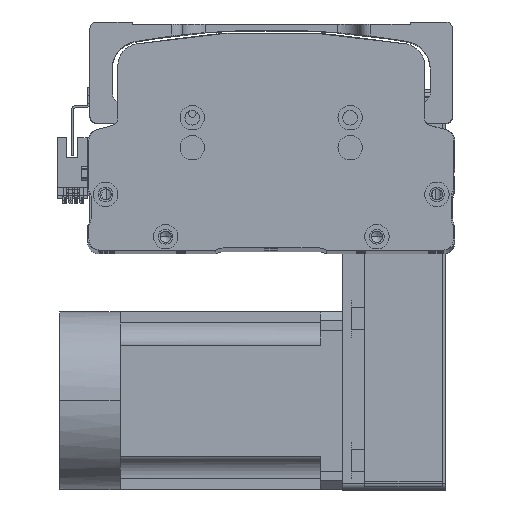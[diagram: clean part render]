
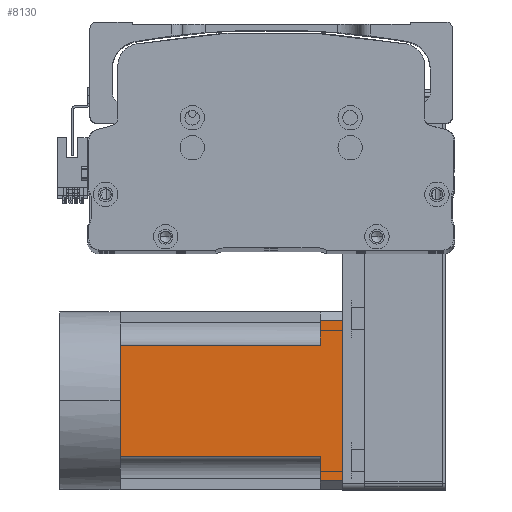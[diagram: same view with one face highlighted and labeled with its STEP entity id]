
A CAD part, top view. The second image highlights one B-rep face of the part: STEP entity #8130.
In plain terms, the highlighted planar face has unit normal (0, 0, 1) as drawn and (0, 0, -1) by its records, which use the part's own axes.
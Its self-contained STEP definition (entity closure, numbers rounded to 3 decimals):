
#17 = CARTESIAN_POINT ( 'NONE',  ( -25., -27., -40. ) ) ;
#198 = EDGE_CURVE ( 'NONE', #38387, #50572, #10936, .T. ) ;
#1111 = VECTOR ( 'NONE', #52843, 1000. ) ;
#1177 = EDGE_CURVE ( 'NONE', #3865, #45585, #15428, .T. ) ;
#2031 = LINE ( 'NONE', #19003, #52935 ) ;
#3818 = ORIENTED_EDGE ( 'NONE', *, *, #1177, .T. ) ;
#3865 = VERTEX_POINT ( 'NONE', #19709 ) ;
#5973 = EDGE_CURVE ( 'NONE', #23214, #32613, #8035, .T. ) ;
#5997 = VECTOR ( 'NONE', #51710, 1000. ) ;
#6011 = ORIENTED_EDGE ( 'NONE', *, *, #5973, .T. ) ;
#8035 = LINE ( 'NONE', #61886, #58903 ) ;
#8130 = ADVANCED_FACE ( 'NONE', ( #55829 ), #22325, .T. ) ;
#8559 = DIRECTION ( 'NONE',  ( -1., 0., 0. ) ) ;
#9041 = ORIENTED_EDGE ( 'NONE', *, *, #198, .T. ) ;
#9909 = DIRECTION ( 'NONE',  ( 0., 1., 0. ) ) ;
#10936 = LINE ( 'NONE', #34541, #35584 ) ;
#11093 = VERTEX_POINT ( 'NONE', #41804 ) ;
#14088 = DIRECTION ( 'NONE',  ( -1., 0., 0. ) ) ;
#15428 = LINE ( 'NONE', #17, #53192 ) ;
#15783 = LINE ( 'NONE', #23351, #1111 ) ;
#17151 = EDGE_CURVE ( 'NONE', #49631, #3865, #45338, .T. ) ;
#19003 = CARTESIAN_POINT ( 'NONE',  ( -40., 90., -40. ) ) ;
#19709 = CARTESIAN_POINT ( 'NONE',  ( -25., 0., -40. ) ) ;
#21985 = EDGE_CURVE ( 'NONE', #11093, #23214, #39443, .T. ) ;
#22325 = PLANE ( 'NONE',  #31039 ) ;
#23214 = VERTEX_POINT ( 'NONE', #37397 ) ;
#23351 = CARTESIAN_POINT ( 'NONE',  ( 36., -27., -40. ) ) ;
#25733 = VECTOR ( 'NONE', #8559, 1000. ) ;
#27483 = DIRECTION ( 'NONE',  ( -1., 0., 0. ) ) ;
#29829 = CARTESIAN_POINT ( 'NONE',  ( -40., 100., -40. ) ) ;
#30422 = VECTOR ( 'NONE', #44735, 1000. ) ;
#31039 = AXIS2_PLACEMENT_3D ( 'NONE', #47083, #56976, #27483 ) ;
#32033 = ORIENTED_EDGE ( 'NONE', *, *, #54423, .T. ) ;
#32613 = VERTEX_POINT ( 'NONE', #40046 ) ;
#33976 = CARTESIAN_POINT ( 'NONE',  ( -36., 100., -40. ) ) ;
#34541 = CARTESIAN_POINT ( 'NONE',  ( -36., -27., -40. ) ) ;
#35584 = VECTOR ( 'NONE', #54192, 1000. ) ;
#36314 = VECTOR ( 'NONE', #53291, 1000. ) ;
#36935 = VERTEX_POINT ( 'NONE', #48351 ) ;
#37246 = LINE ( 'NONE', #43048, #25733 ) ;
#37397 = CARTESIAN_POINT ( 'NONE',  ( 25., 90., -40. ) ) ;
#38298 = CARTESIAN_POINT ( 'NONE',  ( -25., 90., -40. ) ) ;
#38387 = VERTEX_POINT ( 'NONE', #48632 ) ;
#39337 = ORIENTED_EDGE ( 'NONE', *, *, #54897, .T. ) ;
#39443 = LINE ( 'NONE', #58220, #36314 ) ;
#40046 = CARTESIAN_POINT ( 'NONE',  ( 25., 0., -40. ) ) ;
#41804 = CARTESIAN_POINT ( 'NONE',  ( 36., 90., -40. ) ) ;
#41870 = ORIENTED_EDGE ( 'NONE', *, *, #21985, .T. ) ;
#43048 = CARTESIAN_POINT ( 'NONE',  ( -40., 0., -40. ) ) ;
#44735 = DIRECTION ( 'NONE',  ( -1., 0., 0. ) ) ;
#45338 = LINE ( 'NONE', #61592, #5997 ) ;
#45585 = VERTEX_POINT ( 'NONE', #38298 ) ;
#47083 = CARTESIAN_POINT ( 'NONE',  ( -40., -27., -40. ) ) ;
#48351 = CARTESIAN_POINT ( 'NONE',  ( 36., 100., -40. ) ) ;
#48430 = ORIENTED_EDGE ( 'NONE', *, *, #17151, .T. ) ;
#48632 = CARTESIAN_POINT ( 'NONE',  ( -36., 90., -40. ) ) ;
#48991 = ORIENTED_EDGE ( 'NONE', *, *, #60924, .T. ) ;
#49631 = VERTEX_POINT ( 'NONE', #49663 ) ;
#49663 = CARTESIAN_POINT ( 'NONE',  ( 0., 0., -40. ) ) ;
#50572 = VERTEX_POINT ( 'NONE', #33976 ) ;
#51710 = DIRECTION ( 'NONE',  ( -1., 0., 0. ) ) ;
#52005 = DIRECTION ( 'NONE',  ( 0., -1., 0. ) ) ;
#52843 = DIRECTION ( 'NONE',  ( 0., -1., 0. ) ) ;
#52935 = VECTOR ( 'NONE', #14088, 1000. ) ;
#53192 = VECTOR ( 'NONE', #9909, 1000. ) ;
#53291 = DIRECTION ( 'NONE',  ( -1., 0., 0. ) ) ;
#54192 = DIRECTION ( 'NONE',  ( 0., 1., 0. ) ) ;
#54423 = EDGE_CURVE ( 'NONE', #36935, #11093, #15783, .T. ) ;
#54897 = EDGE_CURVE ( 'NONE', #32613, #49631, #37246, .T. ) ;
#55829 = FACE_OUTER_BOUND ( 'NONE', #62875, .T. ) ;
#56674 = LINE ( 'NONE', #29829, #30422 ) ;
#56976 = DIRECTION ( 'NONE',  ( 0., 0., -1. ) ) ;
#58220 = CARTESIAN_POINT ( 'NONE',  ( -40., 90., -40. ) ) ;
#58903 = VECTOR ( 'NONE', #52005, 1000. ) ;
#60374 = ORIENTED_EDGE ( 'NONE', *, *, #61579, .F. ) ;
#60924 = EDGE_CURVE ( 'NONE', #45585, #38387, #2031, .T. ) ;
#61579 = EDGE_CURVE ( 'NONE', #36935, #50572, #56674, .T. ) ;
#61592 = CARTESIAN_POINT ( 'NONE',  ( -40., 0., -40. ) ) ;
#61886 = CARTESIAN_POINT ( 'NONE',  ( 25., -27., -40. ) ) ;
#62875 = EDGE_LOOP ( 'NONE', ( #60374, #32033, #41870, #6011, #39337, #48430, #3818, #48991, #9041 ) ) ;
